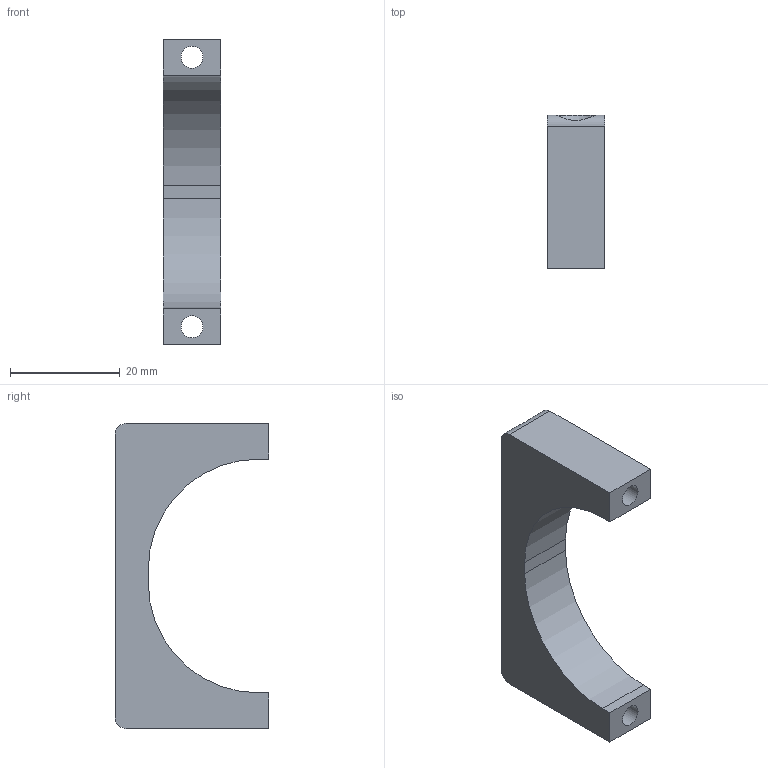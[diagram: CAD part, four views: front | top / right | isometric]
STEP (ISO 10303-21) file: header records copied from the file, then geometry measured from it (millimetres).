
FILE_DESCRIPTION(/* description */ (''),/* implementation_level */ '2;1');
FILE_NAME(/* name */ '/Users/valerian/Desktop/Blower Holder.step',/* time_stamp */ '2020-11-22T20:25:47+01:00',/* author */ (''),/* organization */ (''),/* preprocessor_version */ 'ST-DEVELOPER v18.1',/* originating_system */ 'Autodesk Translation Framework v9.3.0.1241',/* authorisation */ '');
FILE_SCHEMA (('AUTOMOTIVE_DESIGN { 1 0 10303 214 3 1 1 }'));
Length unit declared in the file: millimetre
Products named in the file (1): Blower Holder
Bounding box: 10.5 x 27.9 x 55.5 mm (x, y, z)
Volume: 7510.5 mm3; surface area: 4213.1 mm2
Topology: 1 solids, 1 shells, 18 faces, 52 edges, 34 vertices
Faces by surface type: plane 10, cylinder 6, cone 2
Full cylindrical faces by diameter (mm): 4 x2
Entity records: 676 total; most frequent: CARTESIAN_POINT 148, ORIENTED_EDGE 104, DIRECTION 104, EDGE_CURVE 52, AXIS2_PLACEMENT_3D 35, LINE 34, VECTOR 34, VERTEX_POINT 34
